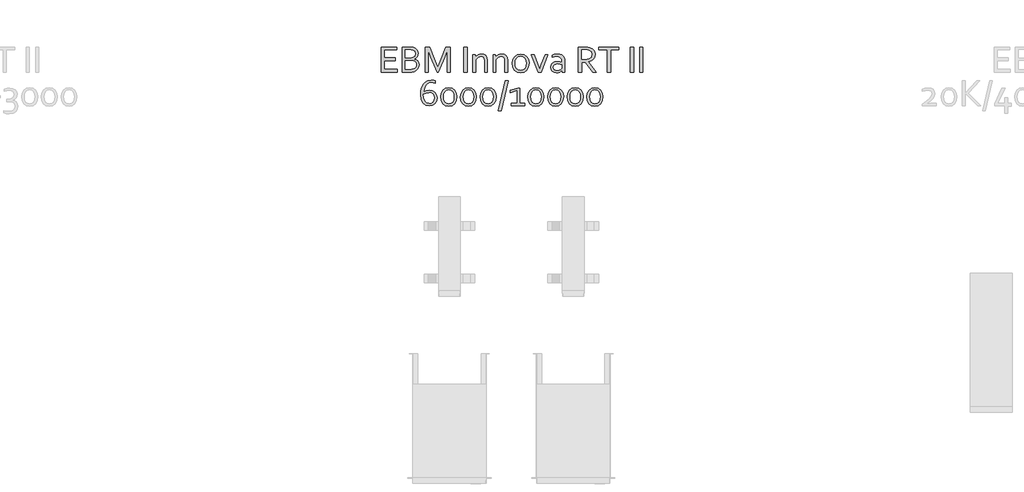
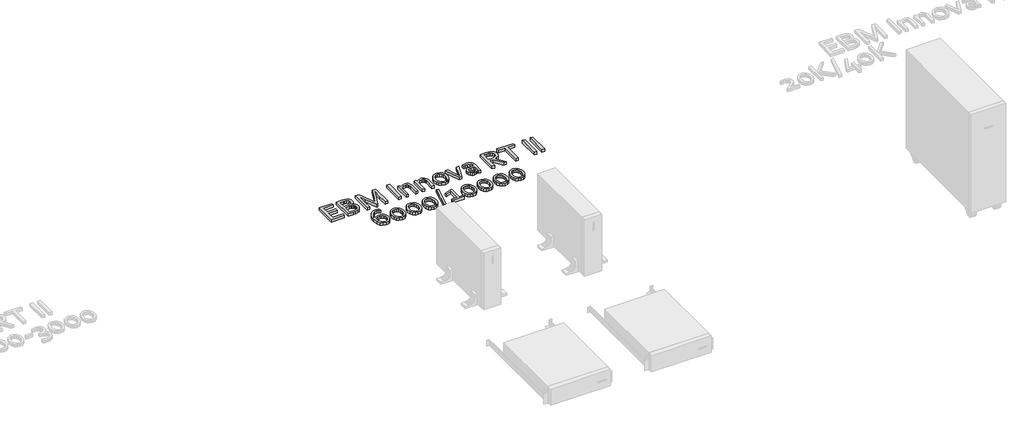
# One storey, part 8 of 14: 1 proxy.
"""IFC4 building model written with IfcOpenShell, lengths in millimetres."""

from ifc_helpers import new_model, si_unit, origin, origin_with_axes, place, context, project, spatial, polyline, outline, extrude, element, save

model = new_model("IFC4")

# Units and contexts
model_context = context("Model", 3, world=origin())
ifc_project = project(units=[si_unit("LENGTHUNIT", "METRE", prefix="MILLI")], contexts=[model_context])

# Site, building, storey
site = spatial("IfcSite", under=ifc_project)
building = spatial("IfcBuilding", under=site)
storey = spatial("IfcBuildingStorey", under=building, Name="Этаж 01", Elevation=0.0)

# Proxy
placement = place(None, origin())
element("IfcBuildingElementProxy", 1, Name="150 мм Corbel", ObjectType="150 мм Corbel", at=placement, inside=storey, context=model_context, shape_type="SweptSolid", body=[
    extrude(outline(polyline([(15457.574335, -7548.6877316), (15534.4874921, -7548.6877316), (15534.4874921, -7565.4878752), (15437.9741675, -7565.4878752), (15437.9741675, -7414.2865833), (15530.3312066, -7414.2865833), (15530.3312066, -7431.0867269), (15457.574335, -7431.0867269), (15457.574335, -7478.6871335), (15522.2811378, -7478.6871335), (15522.2811378, -7495.4872771), (15457.574335, -7495.4872771), (15457.574335, -7548.6877316)])), origin_with_axes(), (0.0, 0.0, 1.0), 20.0),
    extrude(outline(polyline([(15635.2883533, -7486.1246971), (15647.779085, -7490.1278563), (15657.1854154, -7497.1497913), (15662.9167144, -7507.3217532), (15664.7761052, -7520.7749931), (15663.2667174, -7532.0407144), (15658.2354244, -7543.4814371), (15649.0040955, -7553.7190246), (15634.8508496, -7561.37534), (15620.4569766, -7564.5691173), (15601.4693144, -7565.4878752), (15563.975244, -7565.4878752), (15563.975244, -7414.2865833), (15600.4193054, -7414.2865833), (15609.497508, -7414.4615848), (15617.0225723, -7414.9647141), (15623.4101268, -7415.7959712), (15628.9882995, -7416.9553561), (15641.457156, -7422.1616506), (15650.9947375, -7430.0148427), (15657.0541643, -7440.3836813), (15659.1760574, -7453.0056641), (15657.8854214, -7463.4838786), (15653.7291359, -7472.7370827), (15646.3353227, -7480.3277726), (15635.2883533, -7486.1246971)]), holes=[polyline([(15610.7006432, -7478.6871335), (15619.7350954, -7478.1840042), (15626.6257793, -7476.7183667), (15638.6133817, -7468.1214183), (15642.3759139, -7454.3181753), (15638.4383802, -7440.9961865), (15626.1007748, -7433.2742455), (15616.4756926, -7431.5898561), (15603.5693323, -7431.0867269), (15583.5754115, -7431.0867269), (15583.5754115, -7478.6871335), (15610.7006432, -7478.6871335)]), polyline([(15583.5754115, -7495.4872771), (15583.5754115, -7548.6877316), (15604.8818435, -7548.6877316), (15618.9694639, -7547.9439753), (15629.9945581, -7545.5814551), (15638.4383802, -7541.1845425), (15644.0165529, -7535.2344917), (15647.0572039, -7528.3219326), (15647.9759617, -7520.9062443), (15646.9915783, -7512.7030492), (15643.797801, -7505.8342405), (15637.9571261, -7500.5185701), (15628.9445491, -7496.9747898), (15621.5069856, -7495.8372801), (15611.1818973, -7495.4872771), (15583.5754115, -7495.4872771)])]), origin_with_axes(), (0.0, 0.0, 1.0), 20.0),
    extrude(outline(polyline([(15781.0208484, -7565.4878752), (15772.5332759, -7565.4878752), (15735.5204597, -7475.1871036), (15720.1203281, -7434.6305071), (15720.7765837, -7492.3810005), (15720.7765837, -7565.4878752), (15701.1764162, -7565.4878752), (15701.1764162, -7414.2865833), (15727.6453924, -7414.2865833), (15763.0831952, -7499.8185641), (15776.4708095, -7535.2126165), (15790.4271788, -7499.8185641), (15825.9087319, -7414.2865833), (15852.3777081, -7414.2865833), (15852.3777081, -7565.4878752), (15832.7775406, -7565.4878752), (15832.7775406, -7492.3810005), (15834.3525541, -7434.6305071), (15818.0336647, -7475.1871036), (15781.0208484, -7565.4878752)])), origin_with_axes(), (0.0, 0.0, 1.0), 20.0),
    extrude(outline(polyline([(15933.5784018, -7565.4878752), (15933.5784018, -7414.2865833), (15953.1785693, -7414.2865833), (15953.1785693, -7565.4878752), (15933.5784018, -7565.4878752)])), origin_with_axes(), (0.0, 0.0, 1.0), 20.0),
    extrude(outline(polyline([(16003.4914992, -7473.8745924), (16010.2071816, -7467.0057837), (16018.0603736, -7461.3838607), (16027.5760799, -7457.6213286), (16038.8418012, -7456.2869422), (16052.4481675, -7458.2994594), (16063.4513865, -7464.7963899), (16070.8451996, -7476.4996149), (16073.579598, -7494.2622666), (16073.579598, -7565.4878752), (16056.7794545, -7565.4878752), (16056.7794545, -7496.4060349), (16055.4341305, -7484.4457765), (16051.3981585, -7476.3902389), (16044.791852, -7471.8128561), (16035.7355247, -7470.2870618), (16018.1916248, -7475.5152314), (16003.5789999, -7489.8872292), (16003.5789999, -7565.4878752), (15986.7788564, -7565.4878752), (15986.7788564, -7459.0869661), (16000.1227204, -7459.0869661), (16003.4914992, -7473.8745924)])), origin_with_axes(), (0.0, 0.0, 1.0), 20.0),
    extrude(outline(polyline([(16123.8925279, -7473.8745924), (16130.6082102, -7467.0057837), (16138.4614023, -7461.3838607), (16147.9771086, -7457.6213286), (16159.2428299, -7456.2869422), (16172.8491961, -7458.2994594), (16183.8524151, -7464.7963899), (16191.2462283, -7476.4996149), (16193.9806267, -7494.2622666), (16193.9806267, -7565.4878752), (16177.1804831, -7565.4878752), (16177.1804831, -7496.4060349), (16175.8351591, -7484.4457765), (16171.7991872, -7476.3902389), (16165.1928807, -7471.8128561), (16156.1365533, -7470.2870618), (16138.5926535, -7475.5152314), (16123.9800286, -7489.8872292), (16123.9800286, -7565.4878752), (16107.1798851, -7565.4878752), (16107.1798851, -7459.0869661), (16120.5237491, -7459.0869661), (16123.8925279, -7473.8745924)])), origin_with_axes(), (0.0, 0.0, 1.0), 20.0),
    extrude(outline(polyline([(16322.7817271, -7512.4186717), (16319.2160717, -7535.2344917), (16309.1097353, -7552.8877675), (16293.2939752, -7564.2628647), (16272.5125476, -7568.2878991), (16251.3154915, -7564.2628647), (16235.4341058, -7552.8877675), (16225.4371454, -7535.2344917), (16221.9808659, -7512.4186717), (16225.5465214, -7489.4278503), (16235.6528577, -7471.7308241), (16251.5342434, -7460.3119765), (16272.3812965, -7456.2869422), (16293.4908519, -7460.3119765), (16309.3722376, -7471.7308241), (16319.3254476, -7489.4278503), (16322.7817271, -7512.4186717)]), holes=[polyline([(16305.9815836, -7512.4186717), (16303.4878123, -7494.546644), (16296.5096277, -7481.312156), (16285.8564116, -7473.0870857), (16272.3812965, -7470.2870618), (16258.9061814, -7473.0870857), (16248.2529654, -7481.312156), (16241.2747808, -7494.546644), (16238.7810094, -7512.4186717), (16241.2747808, -7530.1594483), (16248.3185909, -7543.3283108), (16259.0155573, -7551.4877555), (16272.5125476, -7554.2877795), (16285.9220372, -7551.4877555), (16296.5096277, -7543.3283108), (16303.4878123, -7530.1594483), (16305.9815836, -7512.4186717)])]), origin_with_axes(), (0.0, 0.0, 1.0), 20.0),
    extrude(outline(polyline([(16385.6947647, -7547.9002249), (16396.4573566, -7518.2374715), (16417.9825405, -7459.0869661), (16434.782684, -7459.0869661), (16394.751092, -7565.4878752), (16376.8134388, -7565.4878752), (16336.7818467, -7459.0869661), (16353.5819903, -7459.0869661), (16374.9759231, -7518.2374715), (16385.6947647, -7547.9002249)])), origin_with_axes(), (0.0, 0.0, 1.0), 20.0),
    extrude(outline(polyline([(16519.3084062, -7553.7190246), (16513.5114817, -7559.034695), (16506.0957933, -7563.7597354), (16496.9082148, -7567.0628886), (16486.276874, -7568.2878991), (16472.2548792, -7566.0347548), (16461.2954106, -7559.4065732), (16454.1422245, -7548.7533572), (16451.5828276, -7534.5126105), (16454.4266019, -7520.5124909), (16462.3891699, -7510.0342764), (16474.7049001, -7503.4060947), (16490.608161, -7501.0873249), (16505.8551663, -7502.5748376), (16518.345898, -7505.9436164), (16518.7834017, -7498.3310514), (16518.2146469, -7489.9966052), (16516.2896304, -7483.6309258), (16507.0145512, -7474.0714691), (16489.7331535, -7470.2870618), (16474.5298986, -7471.7745745), (16460.3766527, -7475.8871096), (16460.3766527, -7462.1932426), (16466.6985817, -7459.8088472), (16474.3767723, -7457.905706), (16482.88622, -7456.7025707), (16491.8769219, -7456.2869422), (16506.5114219, -7457.7142981), (16518.1271461, -7461.9963659), (16526.7897201, -7468.6300164), (16532.5647695, -7477.1121201), (16534.8835393, -7485.0090626), (16535.5835453, -7494.4810185), (16535.5835453, -7565.4878752), (16521.1896723, -7565.4878752), (16519.3084062, -7553.7190246)]), holes=[polyline([(16518.7834017, -7519.0687286), (16507.1676775, -7516.4655813), (16492.4019263, -7515.0874445), (16474.7486505, -7519.8562353), (16469.974391, -7525.9047245), (16468.3829711, -7534.5126105), (16469.9798598, -7543.2626853), (16474.3548971, -7549.4533632), (16480.9393284, -7553.0846442), (16489.0768979, -7554.2877795), (16499.6644884, -7552.6471404), (16508.3708128, -7548.731482), (16514.8458681, -7544.1814431), (16518.7834017, -7540.6376628), (16518.7834017, -7519.0687286)])]), origin_with_axes(), (0.0, 0.0, 1.0), 20.0),
    extrude(outline(polyline([(16636.3844065, -7503.8873488), (16636.3844065, -7565.4878752), (16616.784239, -7565.4878752), (16616.784239, -7414.2865833), (16655.7658221, -7414.2865833), (16672.5659656, -7415.0303397), (16685.2098237, -7417.3928599), (16699.1005673, -7423.2554099), (16709.2725292, -7432.1804862), (16715.5069575, -7443.9383992), (16717.5851003, -7458.2994594), (16714.6757004, -7474.880851), (16706.4943805, -7487.5684594), (16693.8723977, -7496.3622846), (16677.5535082, -7501.3935775), (16723.1851481, -7565.4878752), (16703.5849806, -7565.4878752), (16658.1283423, -7503.8873488), (16636.3844065, -7503.8873488)]), holes=[polyline([(16636.3844065, -7431.0867269), (16636.3844065, -7487.0872053), (16654.0595575, -7487.0872053), (16668.1034275, -7486.5184504), (16678.5597668, -7484.4621829), (16692.9317646, -7474.9683518), (16697.9849328, -7457.9494564), (16693.1505165, -7442.111821), (16680.0910299, -7433.4929974), (16670.6628244, -7431.6554817), (16656.6845799, -7431.0867269), (16636.3844065, -7431.0867269)])]), origin_with_axes(), (0.0, 0.0, 1.0), 20.0),
    extrude(outline(polyline([(16809.9858897, -7565.4878752), (16790.3857223, -7565.4878752), (16790.3857223, -7431.0867269), (16740.2915443, -7431.0867269), (16740.2915443, -7414.2865833), (16860.0800677, -7414.2865833), (16860.0800677, -7431.0867269), (16809.9858897, -7431.0867269), (16809.9858897, -7565.4878752)])), origin_with_axes(), (0.0, 0.0, 1.0), 20.0),
    extrude(outline(polyline([(16927.5868945, -7565.4878752), (16927.5868945, -7414.2865833), (16947.1870619, -7414.2865833), (16947.1870619, -7565.4878752), (16927.5868945, -7565.4878752)])), origin_with_axes(), (0.0, 0.0, 1.0), 20.0),
    extrude(outline(polyline([(16983.5873729, -7565.4878752), (16983.5873729, -7414.2865833), (17003.1875404, -7414.2865833), (17003.1875404, -7565.4878752), (16983.5873729, -7565.4878752)])), origin_with_axes(), (0.0, 0.0, 1.0), 20.0),
    extrude(outline(polyline([(15725.1516211, -7673.4875163), (15744.1611585, -7676.3312906), (15759.2112871, -7684.7313624), (15769.0551212, -7698.4471046), (15772.5770263, -7717.2816405), (15769.3394986, -7736.9255583), (15759.9769186, -7752.2819395), (15745.0142908, -7762.2788999), (15724.9328692, -7765.8883058), (15703.6701876, -7761.228891), (15687.8544274, -7747.9069021), (15677.9887181, -7726.9285979), (15674.576189, -7699.3002368), (15676.2824536, -7676.5281673), (15681.3793721, -7655.7686149), (15689.8013191, -7638.0059632), (15701.8982974, -7624.1370947), (15717.7140575, -7615.1026425), (15736.7892205, -7611.88699), (15751.4674709, -7613.5495042), (15761.770684, -7617.0932845), (15761.770684, -7631.4871575), (15751.0299672, -7627.6152494), (15738.014231, -7625.8871096), (15722.3953475, -7629.212138), (15708.6577302, -7639.4716007), (15698.1576405, -7657.0811261), (15692.1638392, -7682.3250918), (15708.4827287, -7675.8937869), (15725.1516211, -7673.4875163)]), holes=[polyline([(15725.7203759, -7751.8881861), (15737.5329769, -7749.7006675), (15747.0705584, -7743.2693625), (15753.4581129, -7732.7692728), (15755.7768827, -7718.4629006), (15753.3268618, -7703.9596517), (15746.6549298, -7694.3564446), (15736.7673453, -7689.0845246), (15724.670367, -7687.4876359), (15707.3670941, -7690.3532854), (15691.3763325, -7697.3752204), (15693.8044783, -7721.4160508), (15700.913914, -7738.4568214), (15711.8296323, -7748.5631577), (15725.7203759, -7751.8881861)])]), origin_with_axes(), (0.0, 0.0, 1.0), 20.0),
    extrude(outline(polyline([(15890.178031, -7712.8191023), (15886.9623786, -7734.9130411), (15877.6216738, -7752.6538177), (15862.7246715, -7764.4226682), (15842.6651251, -7768.6883297), (15822.2118254, -7764.4226682), (15807.2491975, -7752.6538177), (15798.0834942, -7734.9130411), (15794.9772177, -7712.8191023), (15798.1928701, -7690.5720373), (15807.5335749, -7672.7656351), (15822.4962028, -7660.9530342), (15842.5776244, -7656.6873728), (15862.9434234, -7660.9530342), (15877.9060512, -7672.7656351), (15887.0717545, -7690.5720373), (15890.178031, -7712.8191023)]), holes=[polyline([(15873.3778875, -7712.8191023), (15871.1903688, -7695.1658265), (15864.9996909, -7681.9313384), (15855.3308583, -7673.5968922), (15842.5776244, -7670.6874924), (15829.8243904, -7673.5968922), (15820.1118074, -7681.9313384), (15813.9211295, -7695.1658265), (15811.7773612, -7712.8191023), (15813.9648799, -7730.3192519), (15820.1555578, -7743.5099896), (15829.890016, -7751.7788102), (15842.7088755, -7754.6882101), (15855.4402342, -7751.7788102), (15865.1090669, -7743.5099896), (15871.2341192, -7730.3192519), (15873.3778875, -7712.8191023)])]), origin_with_axes(), (0.0, 0.0, 1.0), 20.0),
    extrude(outline(polyline([(16007.7790358, -7712.8191023), (16004.5633833, -7734.9130411), (15995.2226785, -7752.6538177), (15980.3256762, -7764.4226682), (15960.2661299, -7768.6883297), (15939.8128301, -7764.4226682), (15924.8502023, -7752.6538177), (15915.684499, -7734.9130411), (15912.5782224, -7712.8191023), (15915.7938749, -7690.5720373), (15925.1345797, -7672.7656351), (15940.0972075, -7660.9530342), (15960.1786291, -7656.6873728), (15980.5444281, -7660.9530342), (15995.507056, -7672.7656351), (16004.6727593, -7690.5720373), (16007.7790358, -7712.8191023)]), holes=[polyline([(15990.9788923, -7712.8191023), (15988.7913736, -7695.1658265), (15982.6006957, -7681.9313384), (15972.9318631, -7673.5968922), (15960.1786291, -7670.6874924), (15947.4253952, -7673.5968922), (15937.7128122, -7681.9313384), (15931.5221343, -7695.1658265), (15929.378366, -7712.8191023), (15931.5658847, -7730.3192519), (15937.7565625, -7743.5099896), (15947.4910207, -7751.7788102), (15960.3098802, -7754.6882101), (15973.041239, -7751.7788102), (15982.7100716, -7743.5099896), (15988.835124, -7730.3192519), (15990.9788923, -7712.8191023)])]), origin_with_axes(), (0.0, 0.0, 1.0), 20.0),
    extrude(outline(polyline([(16125.3800406, -7712.8191023), (16122.1643881, -7734.9130411), (16112.8236833, -7752.6538177), (16097.926681, -7764.4226682), (16077.8671346, -7768.6883297), (16057.4138349, -7764.4226682), (16042.451207, -7752.6538177), (16033.2855037, -7734.9130411), (16030.1792272, -7712.8191023), (16033.3948797, -7690.5720373), (16042.7355845, -7672.7656351), (16057.6982123, -7660.9530342), (16077.7796339, -7656.6873728), (16098.1454329, -7660.9530342), (16113.1080607, -7672.7656351), (16122.273764, -7690.5720373), (16125.3800406, -7712.8191023)]), holes=[polyline([(16108.579897, -7712.8191023), (16106.3923783, -7695.1658265), (16100.2017004, -7681.9313384), (16090.5328678, -7673.5968922), (16077.7796339, -7670.6874924), (16065.0263999, -7673.5968922), (16055.3138169, -7681.9313384), (16049.123139, -7695.1658265), (16046.9793707, -7712.8191023), (16049.1668894, -7730.3192519), (16055.3575673, -7743.5099896), (16065.0920255, -7751.7788102), (16077.910885, -7754.6882101), (16090.6422438, -7751.7788102), (16100.3110764, -7743.5099896), (16106.4361287, -7730.3192519), (16108.579897, -7712.8191023)])]), origin_with_axes(), (0.0, 0.0, 1.0), 20.0),
    extrude(outline(polyline([(16138.5926535, -7793.888545), (16181.2055175, -7614.6870139), (16197.7869092, -7614.6870139), (16155.1740451, -7793.888545), (16138.5926535, -7793.888545)])), origin_with_axes(), (0.0, 0.0, 1.0), 20.0),
    extrude(outline(polyline([(16251.3811171, -7751.8881861), (16251.3811171, -7673.4875163), (16210.9120213, -7687.4876359), (16210.9120213, -7673.4875163), (16253.6561365, -7659.4873967), (16268.1812606, -7659.4873967), (16268.1812606, -7751.8881861), (16297.5377615, -7751.8881861), (16297.5377615, -7765.8883058), (16215.5933113, -7765.8883058), (16215.5933113, -7751.8881861), (16251.3811171, -7751.8881861)])), origin_with_axes(), (0.0, 0.0, 1.0), 20.0),
    extrude(outline(polyline([(16410.9824807, -7712.8191023), (16407.7668282, -7734.9130411), (16398.4261234, -7752.6538177), (16383.5291211, -7764.4226682), (16363.4695748, -7768.6883297), (16343.016275, -7764.4226682), (16328.0536472, -7752.6538177), (16318.8879439, -7734.9130411), (16315.7816673, -7712.8191023), (16318.9973198, -7690.5720373), (16328.3380246, -7672.7656351), (16343.3006524, -7660.9530342), (16363.382074, -7656.6873728), (16383.747873, -7660.9530342), (16398.7105009, -7672.7656351), (16407.8762042, -7690.5720373), (16410.9824807, -7712.8191023)]), holes=[polyline([(16394.1823372, -7712.8191023), (16391.9948185, -7695.1658265), (16385.8041406, -7681.9313384), (16376.135308, -7673.5968922), (16363.382074, -7670.6874924), (16350.6288401, -7673.5968922), (16340.9162571, -7681.9313384), (16334.7255792, -7695.1658265), (16332.5818109, -7712.8191023), (16334.7693296, -7730.3192519), (16340.9600074, -7743.5099896), (16350.6944656, -7751.7788102), (16363.5133251, -7754.6882101), (16376.2446839, -7751.7788102), (16385.9135165, -7743.5099896), (16392.0385689, -7730.3192519), (16394.1823372, -7712.8191023)])]), origin_with_axes(), (0.0, 0.0, 1.0), 20.0),
    extrude(outline(polyline([(16528.5834855, -7712.8191023), (16525.367833, -7734.9130411), (16516.0271282, -7752.6538177), (16501.1301259, -7764.4226682), (16481.0705795, -7768.6883297), (16460.6172798, -7764.4226682), (16445.6546519, -7752.6538177), (16436.4889486, -7734.9130411), (16433.3826721, -7712.8191023), (16436.5983246, -7690.5720373), (16445.9390294, -7672.7656351), (16460.9016572, -7660.9530342), (16480.9830788, -7656.6873728), (16501.3488778, -7660.9530342), (16516.3115056, -7672.7656351), (16525.4772089, -7690.5720373), (16528.5834855, -7712.8191023)]), holes=[polyline([(16511.7833419, -7712.8191023), (16509.5958232, -7695.1658265), (16503.4051453, -7681.9313384), (16493.7363127, -7673.5968922), (16480.9830788, -7670.6874924), (16468.2298448, -7673.5968922), (16458.5172618, -7681.9313384), (16452.3265839, -7695.1658265), (16450.1828156, -7712.8191023), (16452.3703343, -7730.3192519), (16458.5610122, -7743.5099896), (16468.2954704, -7751.7788102), (16481.1143299, -7754.6882101), (16493.8456887, -7751.7788102), (16503.5145213, -7743.5099896), (16509.6395736, -7730.3192519), (16511.7833419, -7712.8191023)])]), origin_with_axes(), (0.0, 0.0, 1.0), 20.0),
    extrude(outline(polyline([(16646.1844902, -7712.8191023), (16642.9688378, -7734.9130411), (16633.6281329, -7752.6538177), (16618.7311307, -7764.4226682), (16598.6715843, -7768.6883297), (16578.2182845, -7764.4226682), (16563.2556567, -7752.6538177), (16554.0899534, -7734.9130411), (16550.9836768, -7712.8191023), (16554.1993293, -7690.5720373), (16563.5400341, -7672.7656351), (16578.502662, -7660.9530342), (16598.5840835, -7656.6873728), (16618.9498825, -7660.9530342), (16633.9125104, -7672.7656351), (16643.0782137, -7690.5720373), (16646.1844902, -7712.8191023)]), holes=[polyline([(16629.3843467, -7712.8191023), (16627.196828, -7695.1658265), (16621.0061501, -7681.9313384), (16611.3373175, -7673.5968922), (16598.5840835, -7670.6874924), (16585.8308496, -7673.5968922), (16576.1182666, -7681.9313384), (16569.9275887, -7695.1658265), (16567.7838204, -7712.8191023), (16569.9713391, -7730.3192519), (16576.162017, -7743.5099896), (16585.8964751, -7751.7788102), (16598.7153347, -7754.6882101), (16611.4466934, -7751.7788102), (16621.115526, -7743.5099896), (16627.2405784, -7730.3192519), (16629.3843467, -7712.8191023)])]), origin_with_axes(), (0.0, 0.0, 1.0), 20.0),
    extrude(outline(polyline([(16763.785495, -7712.8191023), (16760.5698425, -7734.9130411), (16751.2291377, -7752.6538177), (16736.3321354, -7764.4226682), (16716.272589, -7768.6883297), (16695.8192893, -7764.4226682), (16680.8566615, -7752.6538177), (16671.6909582, -7734.9130411), (16668.5846816, -7712.8191023), (16671.8003341, -7690.5720373), (16681.1410389, -7672.7656351), (16696.1036667, -7660.9530342), (16716.1850883, -7656.6873728), (16736.5508873, -7660.9530342), (16751.5135151, -7672.7656351), (16760.6792185, -7690.5720373), (16763.785495, -7712.8191023)]), holes=[polyline([(16746.9853515, -7712.8191023), (16744.7978328, -7695.1658265), (16738.6071549, -7681.9313384), (16728.9383223, -7673.5968922), (16716.1850883, -7670.6874924), (16703.4318543, -7673.5968922), (16693.7192714, -7681.9313384), (16687.5285935, -7695.1658265), (16685.3848251, -7712.8191023), (16687.5723438, -7730.3192519), (16693.7630217, -7743.5099896), (16703.4974799, -7751.7788102), (16716.3163394, -7754.6882101), (16729.0476982, -7751.7788102), (16738.7165308, -7743.5099896), (16744.8415831, -7730.3192519), (16746.9853515, -7712.8191023)])]), origin_with_axes(), (0.0, 0.0, 1.0), 20.0),
])

save(model, "model.ifc")
